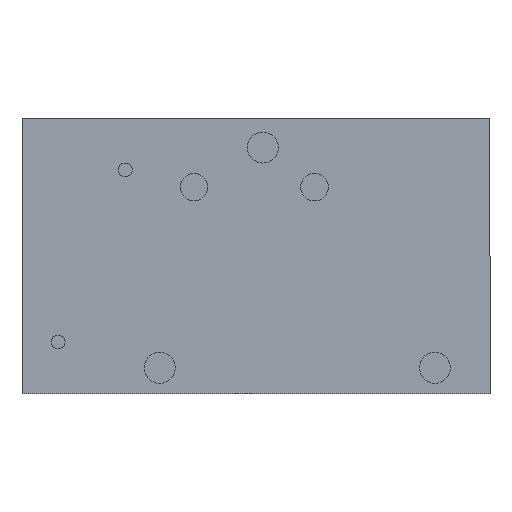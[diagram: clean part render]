
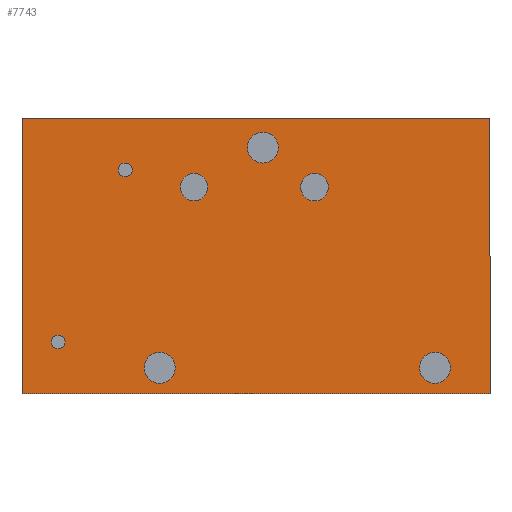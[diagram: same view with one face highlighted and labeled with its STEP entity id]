
A CAD part, top view. The second image highlights one B-rep face of the part: STEP entity #7743.
In plain terms, the highlighted planar face has unit normal (0, 0, 1).
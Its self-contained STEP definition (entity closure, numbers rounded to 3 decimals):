
#41 = AXIS2_PLACEMENT_3D ( 'NONE', #6810, #9091, #3587 ) ;
#102 = CARTESIAN_POINT ( 'NONE',  ( -106., -15., 0. ) ) ;
#337 = DIRECTION ( 'NONE',  ( 0., 0., -1. ) ) ;
#360 = CIRCLE ( 'NONE', #2669, 2. ) ;
#397 = CARTESIAN_POINT ( 'NONE',  ( 0., -80., 0. ) ) ;
#440 = FACE_BOUND ( 'NONE', #3324, .T. ) ;
#489 = ORIENTED_EDGE ( 'NONE', *, *, #7363, .F. ) ;
#580 = CIRCLE ( 'NONE', #2546, 4.5 ) ;
#686 = DIRECTION ( 'NONE',  ( -1., 0., 0. ) ) ;
#759 = CIRCLE ( 'NONE', #1584, 4.5 ) ;
#973 = LINE ( 'NONE', #3244, #8050 ) ;
#1235 = VERTEX_POINT ( 'NONE', #8167 ) ;
#1327 = CARTESIAN_POINT ( 'NONE',  ( -86., -20., 0. ) ) ;
#1584 = AXIS2_PLACEMENT_3D ( 'NONE', #2722, #2824, #9882 ) ;
#1941 = FACE_BOUND ( 'NONE', #4424, .T. ) ;
#2007 = CARTESIAN_POINT ( 'NONE',  ( -104., -15., 0. ) ) ;
#2023 = EDGE_LOOP ( 'NONE', ( #9543, #5797, #8084, #2428 ) ) ;
#2042 = FACE_BOUND ( 'NONE', #5262, .T. ) ;
#2090 = DIRECTION ( 'NONE',  ( 1., 0., 0. ) ) ;
#2428 = ORIENTED_EDGE ( 'NONE', *, *, #4223, .T. ) ;
#2537 = AXIS2_PLACEMENT_3D ( 'NONE', #1327, #4280, #6668 ) ;
#2546 = AXIS2_PLACEMENT_3D ( 'NONE', #3652, #337, #9928 ) ;
#2626 = VERTEX_POINT ( 'NONE', #4288 ) ;
#2669 = AXIS2_PLACEMENT_3D ( 'NONE', #7613, #9908, #7661 ) ;
#2722 = CARTESIAN_POINT ( 'NONE',  ( -66., -8.5, 0. ) ) ;
#2774 = ORIENTED_EDGE ( 'NONE', *, *, #6407, .F. ) ;
#2783 = VERTEX_POINT ( 'NONE', #9838 ) ;
#2815 = FACE_BOUND ( 'NONE', #9686, .T. ) ;
#2824 = DIRECTION ( 'NONE',  ( 0., 0., -1. ) ) ;
#2896 = LINE ( 'NONE', #6894, #5836 ) ;
#3210 = DIRECTION ( 'NONE',  ( 0., 0., 1. ) ) ;
#3244 = CARTESIAN_POINT ( 'NONE',  ( -136., 0., 0. ) ) ;
#3324 = EDGE_LOOP ( 'NONE', ( #489 ) ) ;
#3402 = VERTEX_POINT ( 'NONE', #4336 ) ;
#3432 = EDGE_CURVE ( 'NONE', #4803, #9506, #973, .T. ) ;
#3467 = VERTEX_POINT ( 'NONE', #397 ) ;
#3587 = DIRECTION ( 'NONE',  ( -1., 0., 0. ) ) ;
#3638 = CARTESIAN_POINT ( 'NONE',  ( -51., -20., 0. ) ) ;
#3652 = CARTESIAN_POINT ( 'NONE',  ( -96., -72.5, 0. ) ) ;
#3719 = ORIENTED_EDGE ( 'NONE', *, *, #7350, .T. ) ;
#3952 = EDGE_CURVE ( 'NONE', #3467, #4428, #2896, .T. ) ;
#4223 = EDGE_CURVE ( 'NONE', #9506, #3467, #7520, .T. ) ;
#4236 = VERTEX_POINT ( 'NONE', #7443 ) ;
#4255 = EDGE_CURVE ( 'NONE', #2783, #2783, #5188, .T. ) ;
#4280 = DIRECTION ( 'NONE',  ( 0., 0., 1. ) ) ;
#4288 = CARTESIAN_POINT ( 'NONE',  ( -82., -20., 0. ) ) ;
#4336 = CARTESIAN_POINT ( 'NONE',  ( -70.5, -8.5, 0. ) ) ;
#4424 = EDGE_LOOP ( 'NONE', ( #4549 ) ) ;
#4428 = VERTEX_POINT ( 'NONE', #4730 ) ;
#4429 = DIRECTION ( 'NONE',  ( 0., 0., -1. ) ) ;
#4508 = EDGE_CURVE ( 'NONE', #8224, #8224, #6859, .T. ) ;
#4549 = ORIENTED_EDGE ( 'NONE', *, *, #4508, .F. ) ;
#4706 = AXIS2_PLACEMENT_3D ( 'NONE', #7380, #4429, #9144 ) ;
#4730 = CARTESIAN_POINT ( 'NONE',  ( 0., 0., 0. ) ) ;
#4803 = VERTEX_POINT ( 'NONE', #6221 ) ;
#5012 = CARTESIAN_POINT ( 'NONE',  ( -123.5, -65., 0. ) ) ;
#5105 = PLANE ( 'NONE',  #4706 ) ;
#5188 = CIRCLE ( 'NONE', #41, 4.5 ) ;
#5262 = EDGE_LOOP ( 'NONE', ( #2774 ) ) ;
#5350 = VECTOR ( 'NONE', #2090, 1000. ) ;
#5797 = ORIENTED_EDGE ( 'NONE', *, *, #6563, .T. ) ;
#5812 = DIRECTION ( 'NONE',  ( 0., 0., 1. ) ) ;
#5836 = VECTOR ( 'NONE', #7602, 1000. ) ;
#5948 = VERTEX_POINT ( 'NONE', #5012 ) ;
#5978 = FACE_BOUND ( 'NONE', #7089, .T. ) ;
#6028 = EDGE_CURVE ( 'NONE', #4236, #4236, #580, .T. ) ;
#6221 = CARTESIAN_POINT ( 'NONE',  ( -136., 0., 0. ) ) ;
#6352 = AXIS2_PLACEMENT_3D ( 'NONE', #102, #3210, #8817 ) ;
#6407 = EDGE_CURVE ( 'NONE', #1235, #1235, #8006, .T. ) ;
#6563 = EDGE_CURVE ( 'NONE', #4428, #4803, #7063, .T. ) ;
#6648 = CARTESIAN_POINT ( 'NONE',  ( 0., -80., 0. ) ) ;
#6668 = DIRECTION ( 'NONE',  ( 1., 0., 0. ) ) ;
#6810 = CARTESIAN_POINT ( 'NONE',  ( -16., -72.5, 0. ) ) ;
#6859 = CIRCLE ( 'NONE', #6352, 2. ) ;
#6894 = CARTESIAN_POINT ( 'NONE',  ( 0., 0., 0. ) ) ;
#7023 = CIRCLE ( 'NONE', #2537, 4. ) ;
#7063 = LINE ( 'NONE', #10016, #9034 ) ;
#7089 = EDGE_LOOP ( 'NONE', ( #8098 ) ) ;
#7110 = EDGE_LOOP ( 'NONE', ( #8650 ) ) ;
#7238 = DIRECTION ( 'NONE',  ( 0., -1., 0. ) ) ;
#7350 = EDGE_CURVE ( 'NONE', #3402, #3402, #759, .T. ) ;
#7363 = EDGE_CURVE ( 'NONE', #2626, #2626, #7023, .T. ) ;
#7380 = CARTESIAN_POINT ( 'NONE',  ( 0., 0., 0. ) ) ;
#7443 = CARTESIAN_POINT ( 'NONE',  ( -100.5, -72.5, 0. ) ) ;
#7473 = FACE_BOUND ( 'NONE', #7110, .T. ) ;
#7520 = LINE ( 'NONE', #6648, #5350 ) ;
#7602 = DIRECTION ( 'NONE',  ( 0., 1., 0. ) ) ;
#7613 = CARTESIAN_POINT ( 'NONE',  ( -125.5, -65., 0. ) ) ;
#7661 = DIRECTION ( 'NONE',  ( 1., 0., 0. ) ) ;
#7743 = ADVANCED_FACE ( 'NONE', ( #1941, #5978, #440, #2042, #9047, #2815, #7473, #9971 ), #5105, .F. ) ;
#8006 = CIRCLE ( 'NONE', #9353, 4. ) ;
#8050 = VECTOR ( 'NONE', #7238, 1000. ) ;
#8084 = ORIENTED_EDGE ( 'NONE', *, *, #3432, .T. ) ;
#8098 = ORIENTED_EDGE ( 'NONE', *, *, #8767, .F. ) ;
#8167 = CARTESIAN_POINT ( 'NONE',  ( -47., -20., 0. ) ) ;
#8224 = VERTEX_POINT ( 'NONE', #2007 ) ;
#8249 = DIRECTION ( 'NONE',  ( 1., 0., 0. ) ) ;
#8291 = CARTESIAN_POINT ( 'NONE',  ( -136., -80., 0. ) ) ;
#8650 = ORIENTED_EDGE ( 'NONE', *, *, #4255, .T. ) ;
#8701 = ORIENTED_EDGE ( 'NONE', *, *, #6028, .T. ) ;
#8767 = EDGE_CURVE ( 'NONE', #5948, #5948, #360, .T. ) ;
#8817 = DIRECTION ( 'NONE',  ( 1., 0., 0. ) ) ;
#8991 = EDGE_LOOP ( 'NONE', ( #8701 ) ) ;
#9034 = VECTOR ( 'NONE', #686, 1000. ) ;
#9047 = FACE_BOUND ( 'NONE', #8991, .T. ) ;
#9091 = DIRECTION ( 'NONE',  ( 0., 0., -1. ) ) ;
#9144 = DIRECTION ( 'NONE',  ( -1., 0., 0. ) ) ;
#9353 = AXIS2_PLACEMENT_3D ( 'NONE', #3638, #5812, #8249 ) ;
#9506 = VERTEX_POINT ( 'NONE', #8291 ) ;
#9543 = ORIENTED_EDGE ( 'NONE', *, *, #3952, .T. ) ;
#9686 = EDGE_LOOP ( 'NONE', ( #3719 ) ) ;
#9838 = CARTESIAN_POINT ( 'NONE',  ( -20.5, -72.5, 0. ) ) ;
#9882 = DIRECTION ( 'NONE',  ( -1., 0., 0. ) ) ;
#9908 = DIRECTION ( 'NONE',  ( 0., 0., 1. ) ) ;
#9928 = DIRECTION ( 'NONE',  ( -1., 0., 0. ) ) ;
#9971 = FACE_OUTER_BOUND ( 'NONE', #2023, .T. ) ;
#10016 = CARTESIAN_POINT ( 'NONE',  ( 0., 0., 0. ) ) ;
